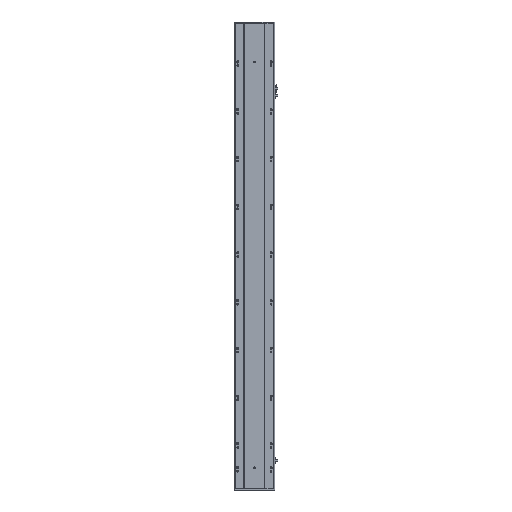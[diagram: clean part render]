
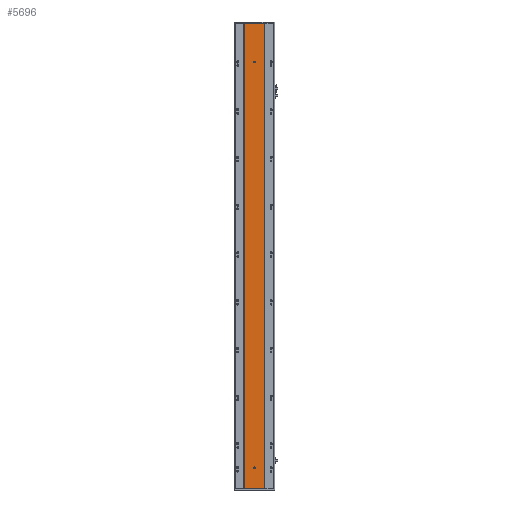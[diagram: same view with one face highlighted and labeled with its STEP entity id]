
A CAD part, front view. The second image highlights one B-rep face of the part: STEP entity #5696.
In plain terms, the highlighted planar face has unit normal (0, -1, 0).
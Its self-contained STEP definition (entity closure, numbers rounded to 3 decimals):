
#268 = CARTESIAN_POINT ( 'NONE',  ( 85., 2.57, 1791.5 ) ) ;
#416 = FACE_OUTER_BOUND ( 'NONE', #26082, .T. ) ;
#951 = VECTOR ( 'NONE', #3330, 1000. ) ;
#1814 = CARTESIAN_POINT ( 'NONE',  ( 85., 2.57, 1788.5 ) ) ;
#2488 = EDGE_CURVE ( 'NONE', #10595, #21351, #6690, .T. ) ;
#2493 = ORIENTED_EDGE ( 'NONE', *, *, #3726, .T. ) ;
#3139 = DIRECTION ( 'NONE',  ( 0., 1., 0. ) ) ;
#3330 = DIRECTION ( 'NONE',  ( 0., 0., 1. ) ) ;
#3513 = CIRCLE ( 'NONE', #4599, 3. ) ;
#3726 = EDGE_CURVE ( 'NONE', #4231, #8955, #16953, .T. ) ;
#3765 = VERTEX_POINT ( 'NONE', #15721 ) ;
#3857 = CARTESIAN_POINT ( 'NONE',  ( 85., 2.57, 85.5 ) ) ;
#3879 = CARTESIAN_POINT ( 'NONE',  ( 42.916, 2.57, 0. ) ) ;
#3946 = DIRECTION ( 'NONE',  ( 0., 0., 1. ) ) ;
#4066 = EDGE_CURVE ( 'NONE', #22592, #12209, #5222, .T. ) ;
#4231 = VERTEX_POINT ( 'NONE', #22075 ) ;
#4599 = AXIS2_PLACEMENT_3D ( 'NONE', #15982, #3139, #18131 ) ;
#4782 = FACE_BOUND ( 'NONE', #25563, .T. ) ;
#5222 = LINE ( 'NONE', #3879, #9597 ) ;
#5696 = ADVANCED_FACE ( 'NONE', ( #10496, #4782, #416 ), #27593, .F. ) ;
#5960 = CIRCLE ( 'NONE', #17493, 3. ) ;
#6690 = LINE ( 'NONE', #20383, #951 ) ;
#6971 = ORIENTED_EDGE ( 'NONE', *, *, #8960, .T. ) ;
#7104 = AXIS2_PLACEMENT_3D ( 'NONE', #21941, #9220, #24098 ) ;
#7208 = DIRECTION ( 'NONE',  ( -1., 0., 0. ) ) ;
#7317 = VECTOR ( 'NONE', #23258, 1000. ) ;
#7320 = ORIENTED_EDGE ( 'NONE', *, *, #20435, .F. ) ;
#7528 = VERTEX_POINT ( 'NONE', #268 ) ;
#8663 = CARTESIAN_POINT ( 'NONE',  ( 85., 2.57, 88.5 ) ) ;
#8955 = VERTEX_POINT ( 'NONE', #3857 ) ;
#8960 = EDGE_CURVE ( 'NONE', #3765, #7528, #18360, .T. ) ;
#9220 = DIRECTION ( 'NONE',  ( 0., 1., 0. ) ) ;
#9597 = VECTOR ( 'NONE', #27362, 1000. ) ;
#9617 = EDGE_CURVE ( 'NONE', #21351, #12209, #12308, .T. ) ;
#9911 = CARTESIAN_POINT ( 'NONE',  ( 126.916, 2.57, 0. ) ) ;
#10092 = ORIENTED_EDGE ( 'NONE', *, *, #9617, .T. ) ;
#10496 = FACE_BOUND ( 'NONE', #19871, .T. ) ;
#10516 = CARTESIAN_POINT ( 'NONE',  ( 42.916, 2.57, 1951. ) ) ;
#10595 = VERTEX_POINT ( 'NONE', #9911 ) ;
#10596 = CARTESIAN_POINT ( 'NONE',  ( 42.916, 2.57, 0. ) ) ;
#10761 = VECTOR ( 'NONE', #7208, 1000. ) ;
#10805 = DIRECTION ( 'NONE',  ( 0., 0., 1. ) ) ;
#12209 = VERTEX_POINT ( 'NONE', #13320 ) ;
#12308 = LINE ( 'NONE', #10516, #7317 ) ;
#12930 = AXIS2_PLACEMENT_3D ( 'NONE', #10596, #27678, #14892 ) ;
#13320 = CARTESIAN_POINT ( 'NONE',  ( 42.916, 2.57, 1951. ) ) ;
#14892 = DIRECTION ( 'NONE',  ( 0., 0., 1. ) ) ;
#15420 = ORIENTED_EDGE ( 'NONE', *, *, #4066, .F. ) ;
#15721 = CARTESIAN_POINT ( 'NONE',  ( 85., 2.57, 1785.5 ) ) ;
#15982 = CARTESIAN_POINT ( 'NONE',  ( 85., 2.57, 1788.5 ) ) ;
#16303 = ORIENTED_EDGE ( 'NONE', *, *, #16749, .T. ) ;
#16432 = LINE ( 'NONE', #26333, #10761 ) ;
#16749 = EDGE_CURVE ( 'NONE', #7528, #3765, #3513, .T. ) ;
#16804 = DIRECTION ( 'NONE',  ( 0., 1., 0. ) ) ;
#16953 = CIRCLE ( 'NONE', #7104, 3. ) ;
#17493 = AXIS2_PLACEMENT_3D ( 'NONE', #8663, #23538, #10805 ) ;
#18131 = DIRECTION ( 'NONE',  ( 0., 0., 1. ) ) ;
#18360 = CIRCLE ( 'NONE', #23671, 3. ) ;
#19871 = EDGE_LOOP ( 'NONE', ( #27539, #2493 ) ) ;
#20383 = CARTESIAN_POINT ( 'NONE',  ( 126.916, 2.57, 0. ) ) ;
#20435 = EDGE_CURVE ( 'NONE', #10595, #22592, #16432, .T. ) ;
#21031 = CARTESIAN_POINT ( 'NONE',  ( 126.916, 2.57, 1951. ) ) ;
#21351 = VERTEX_POINT ( 'NONE', #21031 ) ;
#21941 = CARTESIAN_POINT ( 'NONE',  ( 85., 2.57, 88.5 ) ) ;
#22075 = CARTESIAN_POINT ( 'NONE',  ( 85., 2.57, 91.5 ) ) ;
#22542 = ORIENTED_EDGE ( 'NONE', *, *, #2488, .T. ) ;
#22592 = VERTEX_POINT ( 'NONE', #22690 ) ;
#22690 = CARTESIAN_POINT ( 'NONE',  ( 42.916, 2.57, 0. ) ) ;
#23258 = DIRECTION ( 'NONE',  ( -1., 0., 0. ) ) ;
#23538 = DIRECTION ( 'NONE',  ( 0., 1., 0. ) ) ;
#23671 = AXIS2_PLACEMENT_3D ( 'NONE', #1814, #16804, #3946 ) ;
#24098 = DIRECTION ( 'NONE',  ( 0., 0., 1. ) ) ;
#25563 = EDGE_LOOP ( 'NONE', ( #6971, #16303 ) ) ;
#26082 = EDGE_LOOP ( 'NONE', ( #10092, #15420, #7320, #22542 ) ) ;
#26333 = CARTESIAN_POINT ( 'NONE',  ( 42.916, 2.57, 0. ) ) ;
#26777 = EDGE_CURVE ( 'NONE', #8955, #4231, #5960, .T. ) ;
#27362 = DIRECTION ( 'NONE',  ( 0., 0., 1. ) ) ;
#27539 = ORIENTED_EDGE ( 'NONE', *, *, #26777, .T. ) ;
#27593 = PLANE ( 'NONE',  #12930 ) ;
#27678 = DIRECTION ( 'NONE',  ( 0., 1., 0. ) ) ;
